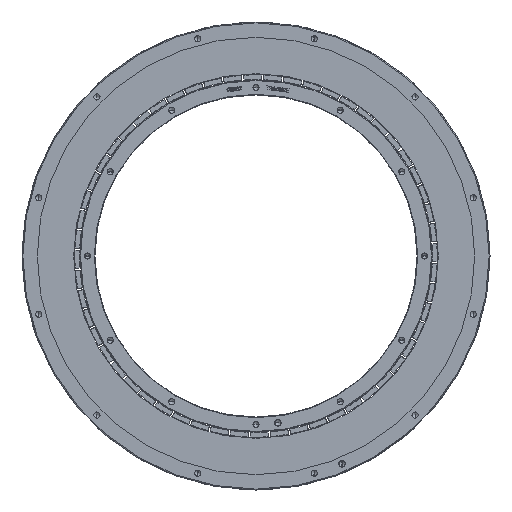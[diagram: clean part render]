
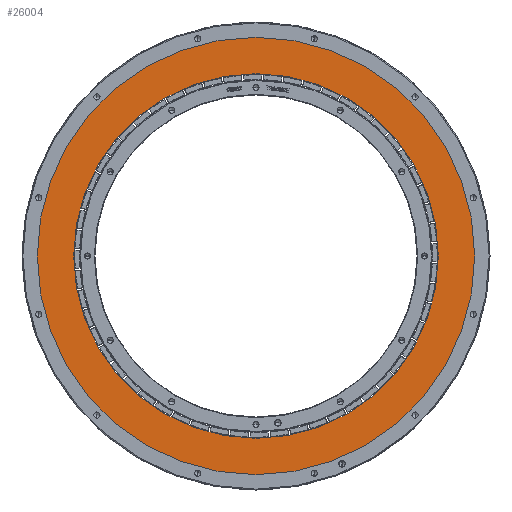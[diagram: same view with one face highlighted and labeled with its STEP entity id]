
A CAD part, front view. The second image highlights one B-rep face of the part: STEP entity #26004.
In plain terms, the highlighted planar face has unit normal (0, -1, 0).
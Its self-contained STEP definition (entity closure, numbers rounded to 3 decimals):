
#545 = AXIS2_PLACEMENT_3D ( 'NONE', #41303, #2708, #37581 ) ;
#1911 = AXIS2_PLACEMENT_3D ( 'NONE', #29867, #7153, #6681 ) ;
#2708 = DIRECTION ( 'NONE',  ( 0., -1., 0. ) ) ;
#3520 = CARTESIAN_POINT ( 'NONE',  ( 0., -54., -150. ) ) ;
#4764 = EDGE_CURVE ( 'NONE', #17369, #32115, #22288, .T. ) ;
#6681 = DIRECTION ( 'NONE',  ( 0., 0., -1. ) ) ;
#7153 = DIRECTION ( 'NONE',  ( 0., -1., 0. ) ) ;
#7407 = FACE_BOUND ( 'NONE', #46809, .T. ) ;
#11839 = EDGE_CURVE ( 'NONE', #32115, #17369, #47412, .T. ) ;
#11956 = ORIENTED_EDGE ( 'NONE', *, *, #11839, .F. ) ;
#14215 = CIRCLE ( 'NONE', #30166, 179.93 ) ;
#14572 = DIRECTION ( 'NONE',  ( 0., -1., 0. ) ) ;
#14636 = PLANE ( 'NONE',  #1911 ) ;
#16065 = EDGE_CURVE ( 'NONE', #29186, #34254, #14215, .T. ) ;
#17221 = AXIS2_PLACEMENT_3D ( 'NONE', #23627, #42521, #30611 ) ;
#17369 = VERTEX_POINT ( 'NONE', #35429 ) ;
#18889 = FACE_OUTER_BOUND ( 'NONE', #42253, .T. ) ;
#22288 = CIRCLE ( 'NONE', #35011, 150. ) ;
#22402 = EDGE_CURVE ( 'NONE', #34254, #29186, #48311, .T. ) ;
#23627 = CARTESIAN_POINT ( 'NONE',  ( 0., -54., 0. ) ) ;
#23769 = CARTESIAN_POINT ( 'NONE',  ( 0., -54., 0. ) ) ;
#26004 = ADVANCED_FACE ( 'NONE', ( #7407, #18889 ), #14636, .T. ) ;
#29186 = VERTEX_POINT ( 'NONE', #35673 ) ;
#29320 = CARTESIAN_POINT ( 'NONE',  ( 0., -54., 0. ) ) ;
#29867 = CARTESIAN_POINT ( 'NONE',  ( 0., -54., 0. ) ) ;
#30166 = AXIS2_PLACEMENT_3D ( 'NONE', #23769, #37950, #46395 ) ;
#30611 = DIRECTION ( 'NONE',  ( 0., 0., -1. ) ) ;
#32115 = VERTEX_POINT ( 'NONE', #3520 ) ;
#32235 = ORIENTED_EDGE ( 'NONE', *, *, #16065, .T. ) ;
#34254 = VERTEX_POINT ( 'NONE', #37778 ) ;
#35011 = AXIS2_PLACEMENT_3D ( 'NONE', #29320, #14572, #44707 ) ;
#35429 = CARTESIAN_POINT ( 'NONE',  ( 0., -54., 150. ) ) ;
#35673 = CARTESIAN_POINT ( 'NONE',  ( 0., -54., 179.93 ) ) ;
#37581 = DIRECTION ( 'NONE',  ( 0., 0., -1. ) ) ;
#37778 = CARTESIAN_POINT ( 'NONE',  ( 0., -54., -179.93 ) ) ;
#37950 = DIRECTION ( 'NONE',  ( 0., -1., 0. ) ) ;
#38428 = ORIENTED_EDGE ( 'NONE', *, *, #22402, .T. ) ;
#41303 = CARTESIAN_POINT ( 'NONE',  ( 0., -54., 0. ) ) ;
#42253 = EDGE_LOOP ( 'NONE', ( #38428, #32235 ) ) ;
#42521 = DIRECTION ( 'NONE',  ( 0., -1., 0. ) ) ;
#43939 = ORIENTED_EDGE ( 'NONE', *, *, #4764, .F. ) ;
#44707 = DIRECTION ( 'NONE',  ( 0., 0., -1. ) ) ;
#46395 = DIRECTION ( 'NONE',  ( 0., 0., -1. ) ) ;
#46809 = EDGE_LOOP ( 'NONE', ( #11956, #43939 ) ) ;
#47412 = CIRCLE ( 'NONE', #17221, 150. ) ;
#48311 = CIRCLE ( 'NONE', #545, 179.93 ) ;
